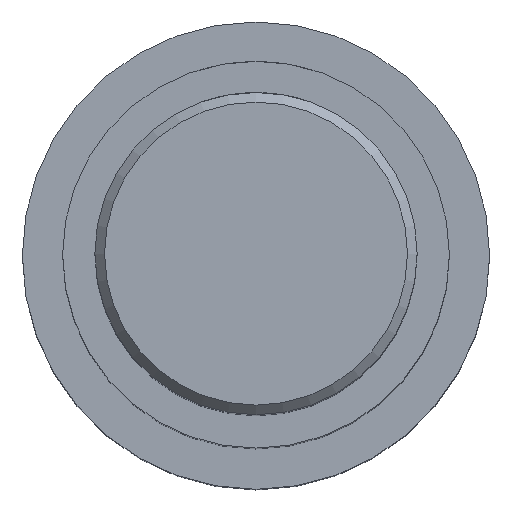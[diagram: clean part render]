
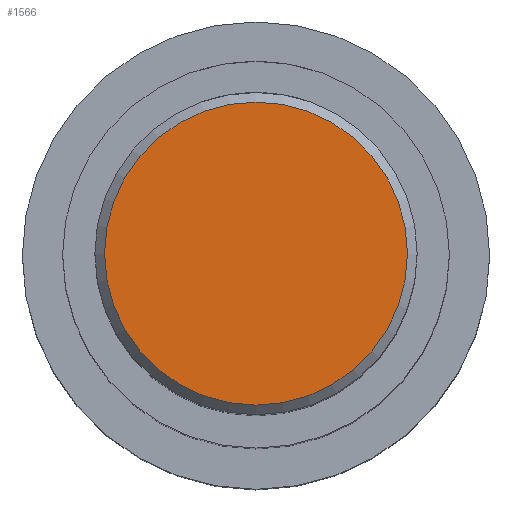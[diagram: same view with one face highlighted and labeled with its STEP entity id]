
A CAD part, top view. The second image highlights one B-rep face of the part: STEP entity #1566.
In plain terms, the highlighted planar face has unit normal (0, 0, 1).
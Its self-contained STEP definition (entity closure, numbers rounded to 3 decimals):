
#1001 = CONICAL_SURFACE('',#1002,5.,0.785);
#1002 = AXIS2_PLACEMENT_3D('',#1003,#1004,#1005);
#1003 = CARTESIAN_POINT('',(0.,0.,51.7));
#1004 = DIRECTION('',(-0.,-0.,-1.));
#1005 = DIRECTION('',(1.,0.,0.));
#1307 = VERTEX_POINT('',#1308);
#1308 = CARTESIAN_POINT('',(4.7,0.,52.));
#1329 = EDGE_CURVE('',#1307,#1307,#1330,.T.);
#1330 = SURFACE_CURVE('',#1331,(#1336,#1343),.PCURVE_S1.);
#1331 = CIRCLE('',#1332,4.7);
#1332 = AXIS2_PLACEMENT_3D('',#1333,#1334,#1335);
#1333 = CARTESIAN_POINT('',(0.,0.,52.));
#1334 = DIRECTION('',(0.,0.,1.));
#1335 = DIRECTION('',(1.,0.,-0.));
#1336 = PCURVE('',#1001,#1337);
#1337 = DEFINITIONAL_REPRESENTATION('',(#1338),#1342);
#1338 = LINE('',#1339,#1340);
#1339 = CARTESIAN_POINT('',(-0.,-0.3));
#1340 = VECTOR('',#1341,1.);
#1341 = DIRECTION('',(-1.,-0.));
#1342 = ( GEOMETRIC_REPRESENTATION_CONTEXT(2) 
PARAMETRIC_REPRESENTATION_CONTEXT() REPRESENTATION_CONTEXT('2D SPACE',''
  ) );
#1343 = PCURVE('',#1344,#1349);
#1344 = PLANE('',#1345);
#1345 = AXIS2_PLACEMENT_3D('',#1346,#1347,#1348);
#1346 = CARTESIAN_POINT('',(0.,0.,52.));
#1347 = DIRECTION('',(0.,0.,1.));
#1348 = DIRECTION('',(1.,0.,-0.));
#1349 = DEFINITIONAL_REPRESENTATION('',(#1350),#1354);
#1350 = CIRCLE('',#1351,4.7);
#1351 = AXIS2_PLACEMENT_2D('',#1352,#1353);
#1352 = CARTESIAN_POINT('',(0.,0.));
#1353 = DIRECTION('',(1.,0.));
#1354 = ( GEOMETRIC_REPRESENTATION_CONTEXT(2) 
PARAMETRIC_REPRESENTATION_CONTEXT() REPRESENTATION_CONTEXT('2D SPACE',''
  ) );
#1566 = ADVANCED_FACE('',(#1567),#1344,.T.);
#1567 = FACE_BOUND('',#1568,.T.);
#1568 = EDGE_LOOP('',(#1569));
#1569 = ORIENTED_EDGE('',*,*,#1329,.T.);
